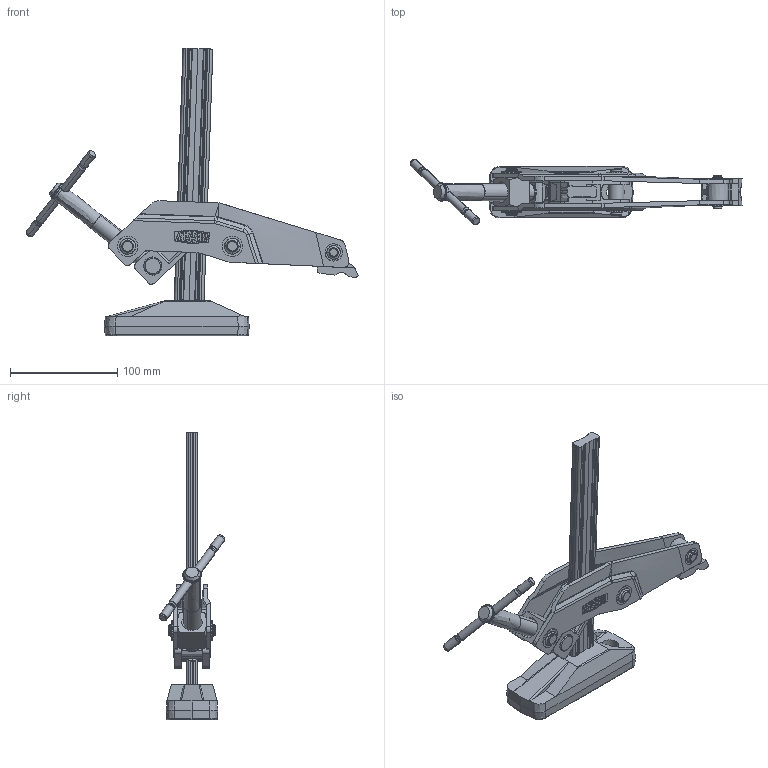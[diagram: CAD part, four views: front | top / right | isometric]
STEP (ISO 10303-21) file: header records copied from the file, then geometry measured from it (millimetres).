
FILE_DESCRIPTION( ( 'STEP AP203' ), '1' );
FILE_NAME( 'C:/Users/88/Desktop/Export-bal/_3205084b_GRS20-12Kd.stp', ' ', ( ' ' ), ( ' ' ), 'PSStep 11.0', ' ', ' ' );
FILE_SCHEMA( ( 'CONFIG_CONTROL_DESIGN' ) );
Length unit declared in the file: metre
Products named in the file (22): 1; 2; 3; 4; 5; 6; 7; 8; 9; 10; 11; 12; 13; 14; 15; 16; 17; 18; 19; 20; 21; 22
Bounding box: 309.41 x 61.23 x 268.33 mm (x, y, z)
Volume: 281086.5 mm3; surface area: 129191 mm2
Topology: 18 solids, 609 shells, 1377 faces, 5269 edges, 4529 vertices
Faces by surface type: bspline 1377
Entity records: 78959 total; most frequent: CARTESIAN_POINT 51051, ORIENTED_EDGE 7276, EDGE_CURVE 5268, B_SPLINE_CURVE_WITH_KNOTS 4592, VERTEX_POINT 4529, EDGE_LOOP 1477, B_SPLINE_SURFACE_WITH_KNOTS 874, ADVANCED_FACE 786
